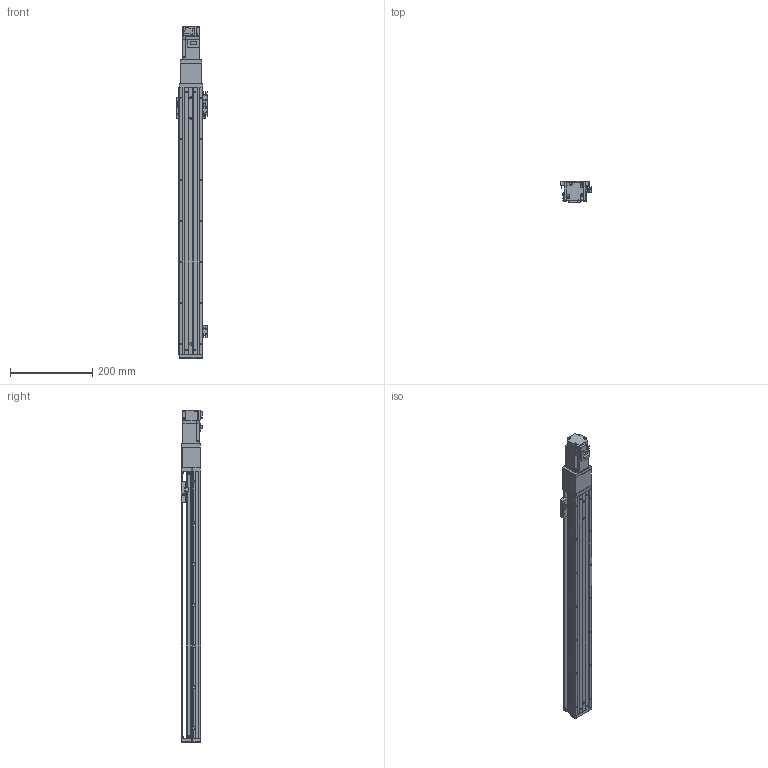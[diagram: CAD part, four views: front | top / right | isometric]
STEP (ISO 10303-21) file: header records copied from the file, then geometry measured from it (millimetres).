
FILE_DESCRIPTION (( 'STEP AP203' ), '1' );
FILE_NAME ('KTHA50-550-BC-M10-C4L.step', '2022-03-19T07:03:52', ( '微软用户' ), ( '微软中国' ), 'SwSTEP 2.0', 'SolidWorks 2020', '' );
FILE_SCHEMA (( 'CONFIG_CONTROL_DESIGN' ));
Length unit declared in the file: millimetre
Products named in the file (18): GB¨uT 70.2-M3¡Á6_M3¡Á6; CTHA60-021; EE_SX911P_R; GBT 70.3-M3℅6; GBT77-2000 M3×3; CTHA50-027; KTHA50-001_650; GBT 70.1-M3℅6; CTHA50-006-2_CTHA60-006-2; KTHA50-002; CTHA60-017; CTHA50-013; KTHA50-004; GBT 70.1-M4×12; HG-KR13（三菱）; KTHA50-005; CTHA60-016; KTHA50-550-BC-M10-C4L
Assembly tree (52 placements, depth 2):
  KTHA50-550-BC-M10-C4L
    KTHA50-001_650
    KTHA50-002
    KTHA50-004
    KTHA50-005
    GB¨uT 70.2-M3¡Á6_M3¡Á6  x6
    EE_SX911P_R  x3
    GBT77-2000 M3×3  x6
    GBT 70.1-M3℅6  x6
    CTHA60-017  x3
    GBT 70.1-M4×12  x10
    CTHA60-016  x2
    CTHA60-021  x2
    GBT 70.3-M3℅6  x6
    CTHA50-027
    CTHA50-006-2_CTHA60-006-2
    CTHA50-013
    HG-KR13（三菱）
Bounding box: 75.22 x 53.3 x 808.6 mm (x, y, z)
Volume: 1346967.8 mm3; surface area: 345141 mm2
Topology: 55 solids, 55 shells, 2186 faces, 5178 edges, 3172 vertices
Faces by surface type: plane 1244, cylinder 518, cone 320, torus 88, sphere 16
Entity records: 35540 total; most frequent: CARTESIAN_POINT 5802, DIRECTION 5730, ORIENTED_EDGE 5428, EDGE_CURVE 2714, AXIS2_PLACEMENT_3D 1913, VECTOR 1904, LINE 1904, VERTEX_POINT 1705
